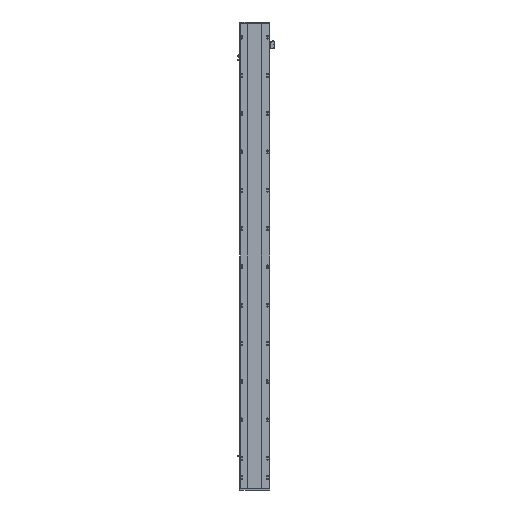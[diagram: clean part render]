
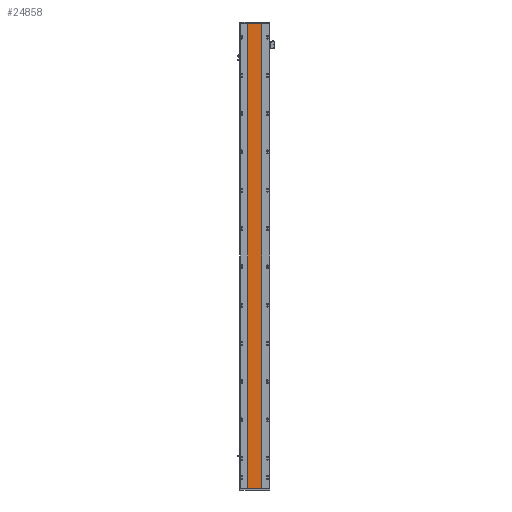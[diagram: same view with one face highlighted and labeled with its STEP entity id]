
A CAD part, front view. The second image highlights one B-rep face of the part: STEP entity #24858.
In plain terms, the highlighted planar face has unit normal (0, -1, 0).
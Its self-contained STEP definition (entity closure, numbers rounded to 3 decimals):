
#2734 = PLANE ( 'NONE',  #28407 ) ;
#5589 = CARTESIAN_POINT ( 'NONE',  ( 205.288, 16.9, 0. ) ) ;
#6322 = CARTESIAN_POINT ( 'NONE',  ( 205.288, 16.9, 0. ) ) ;
#7450 = VECTOR ( 'NONE', #15706, 1000. ) ;
#7508 = VERTEX_POINT ( 'NONE', #39973 ) ;
#9582 = CARTESIAN_POINT ( 'NONE',  ( 205.288, 16.9, 2620. ) ) ;
#10742 = ORIENTED_EDGE ( 'NONE', *, *, #17806, .F. ) ;
#11137 = ORIENTED_EDGE ( 'NONE', *, *, #38670, .F. ) ;
#11706 = VECTOR ( 'NONE', #16527, 1000. ) ;
#11743 = CARTESIAN_POINT ( 'NONE',  ( 129.288, 16.9, 0. ) ) ;
#11799 = CARTESIAN_POINT ( 'NONE',  ( 129.288, 16.9, 2620. ) ) ;
#12991 = CARTESIAN_POINT ( 'NONE',  ( 129.288, 16.9, 2620. ) ) ;
#13581 = DIRECTION ( 'NONE',  ( -1., 0., 0. ) ) ;
#15419 = CARTESIAN_POINT ( 'NONE',  ( 129.288, 16.9, 2620. ) ) ;
#15691 = LINE ( 'NONE', #5589, #7450 ) ;
#15706 = DIRECTION ( 'NONE',  ( 1., 0., 0. ) ) ;
#16527 = DIRECTION ( 'NONE',  ( 0., 0., -1. ) ) ;
#17571 = ORIENTED_EDGE ( 'NONE', *, *, #30358, .T. ) ;
#17806 = EDGE_CURVE ( 'NONE', #43220, #7508, #18348, .T. ) ;
#18088 = LINE ( 'NONE', #43845, #37714 ) ;
#18348 = LINE ( 'NONE', #11799, #20543 ) ;
#18395 = EDGE_CURVE ( 'NONE', #43220, #25468, #18839, .T. ) ;
#18839 = LINE ( 'NONE', #12991, #11706 ) ;
#20306 = DIRECTION ( 'NONE',  ( 0., 1., 0. ) ) ;
#20543 = VECTOR ( 'NONE', #26904, 1000. ) ;
#21830 = EDGE_LOOP ( 'NONE', ( #17571, #11137, #10742, #30162 ) ) ;
#23088 = DIRECTION ( 'NONE',  ( 0., 0., -1. ) ) ;
#24858 = ADVANCED_FACE ( 'NONE', ( #38922 ), #2734, .F. ) ;
#25468 = VERTEX_POINT ( 'NONE', #11743 ) ;
#26456 = VERTEX_POINT ( 'NONE', #6322 ) ;
#26904 = DIRECTION ( 'NONE',  ( 1., 0., 0. ) ) ;
#28407 = AXIS2_PLACEMENT_3D ( 'NONE', #9582, #20306, #13581 ) ;
#30162 = ORIENTED_EDGE ( 'NONE', *, *, #18395, .T. ) ;
#30358 = EDGE_CURVE ( 'NONE', #25468, #26456, #15691, .T. ) ;
#37714 = VECTOR ( 'NONE', #23088, 1000. ) ;
#38670 = EDGE_CURVE ( 'NONE', #7508, #26456, #18088, .T. ) ;
#38922 = FACE_OUTER_BOUND ( 'NONE', #21830, .T. ) ;
#39973 = CARTESIAN_POINT ( 'NONE',  ( 205.288, 16.9, 2620. ) ) ;
#43220 = VERTEX_POINT ( 'NONE', #15419 ) ;
#43845 = CARTESIAN_POINT ( 'NONE',  ( 205.288, 16.9, 2620. ) ) ;
